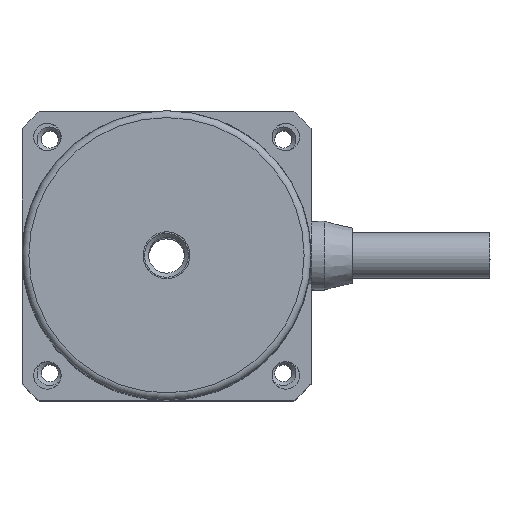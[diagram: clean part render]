
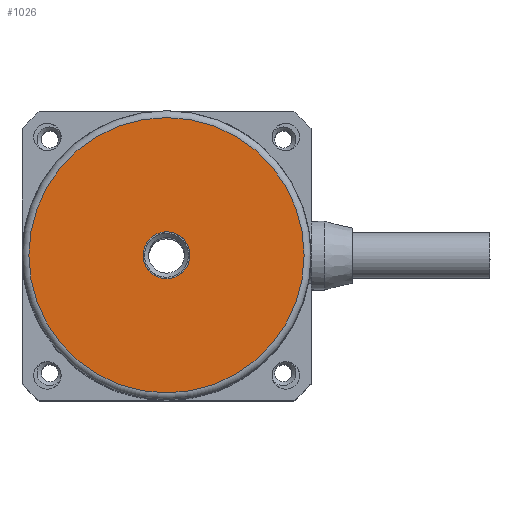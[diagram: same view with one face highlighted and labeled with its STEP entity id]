
A CAD part, top view. The second image highlights one B-rep face of the part: STEP entity #1026.
In plain terms, the highlighted planar face has unit normal (0, 0, 1).
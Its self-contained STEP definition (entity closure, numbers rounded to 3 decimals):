
#1026=ADVANCED_FACE('',(#1468,#1469),#1470,.T.);
#1468=FACE_BOUND('',#2324,.T.);
#1469=FACE_OUTER_BOUND('',#2325,.T.);
#1470=PLANE('',#2326);
#2324=EDGE_LOOP('',(#3491));
#2325=EDGE_LOOP('',(#3492));
#2326=AXIS2_PLACEMENT_3D('',#3493,#3494,#3495);
#3491=ORIENTED_EDGE('',*,*,#5353,.T.);
#3492=ORIENTED_EDGE('',*,*,#5474,.T.);
#3493=CARTESIAN_POINT('',(6.125,0.,45.4));
#3494=DIRECTION('',(0.,0.,1.0));
#3495=DIRECTION('',(1.0,0.,0.));
#5353=EDGE_CURVE('',#6075,#6075,#6076,.F.);
#5474=EDGE_CURVE('',#6284,#6284,#6285,.F.);
#6075=VERTEX_POINT('',#7254);
#6076=CIRCLE('',#7255,1.7);
#6284=VERTEX_POINT('',#7826);
#6285=CIRCLE('',#7827,10.0);
#7254=CARTESIAN_POINT('',(0.,-1.7,45.4));
#7255=AXIS2_PLACEMENT_3D('',#9237,#9238,#9239);
#7826=CARTESIAN_POINT('',(10.,0.,45.4));
#7827=AXIS2_PLACEMENT_3D('',#9423,#9424,#9425);
#9237=CARTESIAN_POINT('',(0.,0.,45.4));
#9238=DIRECTION('',(0.,0.,1.0));
#9239=DIRECTION('',(0.0,-1.0,0.));
#9423=CARTESIAN_POINT('',(0.,0.,45.4));
#9424=DIRECTION('',(0.,0.,-1.0));
#9425=DIRECTION('',(1.0,0.,0.));
